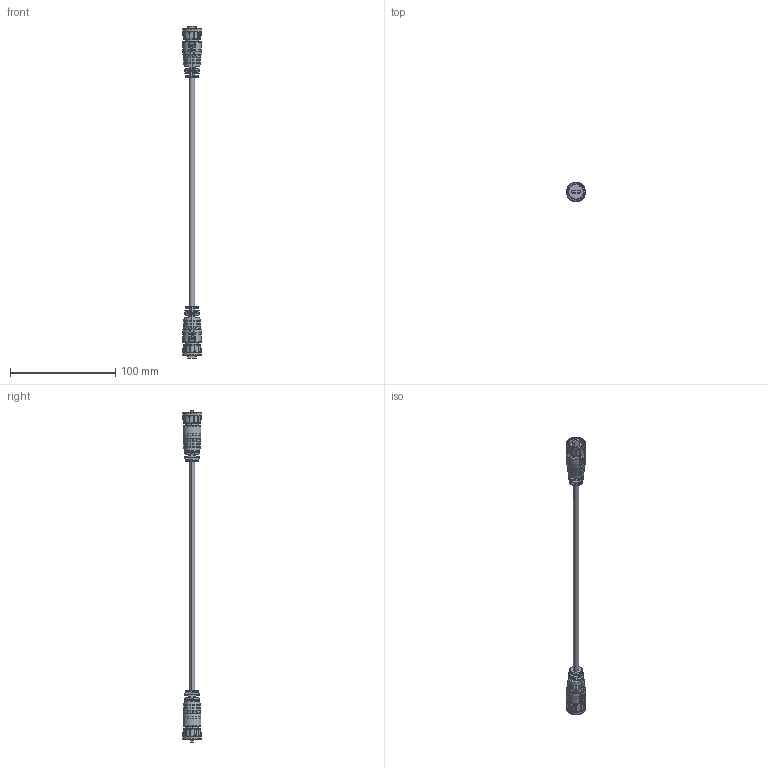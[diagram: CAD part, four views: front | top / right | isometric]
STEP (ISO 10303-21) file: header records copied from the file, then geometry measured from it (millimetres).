
FILE_DESCRIPTION (( 'STEP AP203' ), '1' );
FILE_NAME ('GT11C220-0C-XX.STEP', '2019-09-18T01:53:33', ( '' ), ( '' ), 'SwSTEP 2.0', 'SolidWorks 2019', '' );
FILE_SCHEMA (( 'CONFIG_CONTROL_DESIGN' ));
Products named in the file (1): GT11C220-0C-XX
Bounding box: 18 x 17.93 x 315.7 mm (x, y, z)
Volume: 20616.2 mm3; surface area: 13133.4 mm2
Topology: 5 solids, 5 shells, 1002 faces, 2498 edges, 1486 vertices
Faces by surface type: bspline 310, cylinder 308, plane 276, cone 54, torus 54
Entity records: 64081 total; most frequent: CARTESIAN_POINT 43997, ORIENTED_EDGE 4896, DIRECTION 3048, EDGE_CURVE 2448, VERTEX_POINT 1486, AXIS2_PLACEMENT_3D 1175, B_SPLINE_CURVE_WITH_KNOTS 1106, EDGE_LOOP 1040
